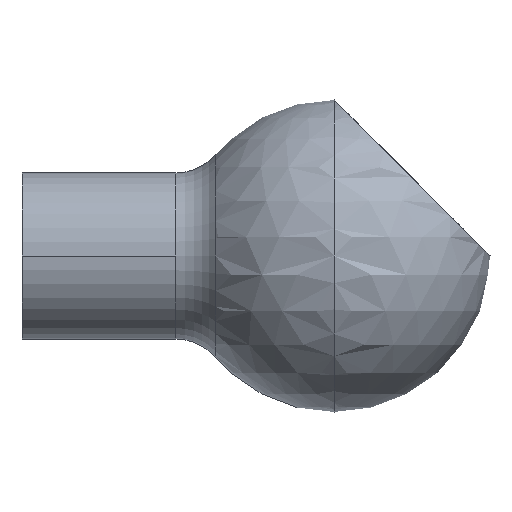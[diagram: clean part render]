
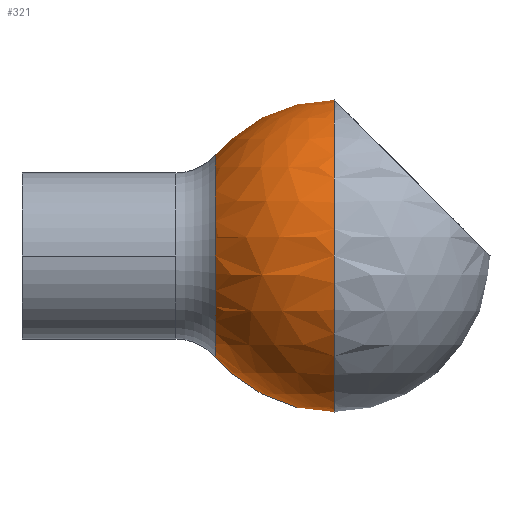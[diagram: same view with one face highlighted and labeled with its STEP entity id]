
A CAD part, left-side view. The second image highlights one B-rep face of the part: STEP entity #321.
In plain terms, the highlighted spherical face has radius 15 mm.
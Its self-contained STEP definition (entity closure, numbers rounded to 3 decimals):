
#167 = EDGE_CURVE( '', #287, #175, #441, .T. );
#173 = EDGE_CURVE( '', #257, #215, #447, .T. );
#175 = VERTEX_POINT( '', #449 );
#197 = VERTEX_POINT( '', #473 );
#199 = VERTEX_POINT( '', #475 );
#207 = VERTEX_POINT( '', #484 );
#209 = EDGE_CURVE( '', #175, #207, #486, .T. );
#211 = EDGE_CURVE( '', #215, #199, #488, .T. );
#215 = VERTEX_POINT( '', #493 );
#243 = EDGE_CURVE( '', #197, #257, #525, .T. );
#257 = VERTEX_POINT( '', #542 );
#259 = EDGE_CURVE( '', #207, #197, #544, .T. );
#287 = VERTEX_POINT( '', #575 );
#313 = EDGE_CURVE( '', #199, #363, #603, .T. );
#321 = ADVANCED_FACE( '', ( #611 ), #612, .T. );
#351 = EDGE_CURVE( '', #363, #287, #643, .T. );
#363 = VERTEX_POINT( '', #658 );
#441 = CIRCLE( '', #741, 15. );
#447 = CIRCLE( '', #749, 9.75 );
#449 = CARTESIAN_POINT( '', ( 0., -30., 15. ) );
#473 = CARTESIAN_POINT( '', ( 9., -30., -12. ) );
#475 = CARTESIAN_POINT( '', ( 0., -18.601, 9.75 ) );
#484 = CARTESIAN_POINT( '', ( 0., -30., -15. ) );
#486 = CIRCLE( '', #795, 15. );
#488 = CIRCLE( '', #798, 9.75 );
#493 = CARTESIAN_POINT( '', ( 0., -18.601, -9.75 ) );
#525 = CIRCLE( '', #844, 12. );
#542 = CARTESIAN_POINT( '', ( 9., -18.601, -3.75 ) );
#544 = CIRCLE( '', #866, 15. );
#575 = CARTESIAN_POINT( '', ( 9., -30., 12. ) );
#603 = CIRCLE( '', #966, 9.75 );
#611 = FACE_OUTER_BOUND( '', #975, .T. );
#612 = SPHERICAL_SURFACE( '', #976, 15. );
#643 = CIRCLE( '', #1022, 12. );
#658 = CARTESIAN_POINT( '', ( 9., -18.601, 3.75 ) );
#741 = AXIS2_PLACEMENT_3D( '', #1117, #1118, #1119 );
#749 = AXIS2_PLACEMENT_3D( '', #1123, #1124, #1125 );
#795 = AXIS2_PLACEMENT_3D( '', #1165, #1166, #1167 );
#798 = AXIS2_PLACEMENT_3D( '', #1168, #1169, #1170 );
#844 = AXIS2_PLACEMENT_3D( '', #1231, #1232, #1233 );
#866 = AXIS2_PLACEMENT_3D( '', #1263, #1264, #1265 );
#966 = AXIS2_PLACEMENT_3D( '', #1317, #1318, #1319 );
#975 = EDGE_LOOP( '', ( #1328, #1329, #1330, #1331, #1332, #1333, #1334, #1335 ) );
#976 = AXIS2_PLACEMENT_3D( '', #1336, #1337, #1338 );
#1022 = AXIS2_PLACEMENT_3D( '', #1375, #1376, #1377 );
#1117 = CARTESIAN_POINT( '', ( 0., -30., 0. ) );
#1118 = DIRECTION( '', ( 0., -1., 0. ) );
#1119 = DIRECTION( '', ( 0., 0., 1. ) );
#1123 = CARTESIAN_POINT( '', ( 0., -18.601, 0. ) );
#1124 = DIRECTION( '', ( 0., 1., 0. ) );
#1125 = DIRECTION( '', ( 0., 0., 1. ) );
#1165 = CARTESIAN_POINT( '', ( 0., -30., 0. ) );
#1166 = DIRECTION( '', ( 0., -1., 0. ) );
#1167 = DIRECTION( '', ( 0., 0., 1. ) );
#1168 = CARTESIAN_POINT( '', ( 0., -18.601, 0. ) );
#1169 = DIRECTION( '', ( 0., 1., 0. ) );
#1170 = DIRECTION( '', ( 0., 0., 1. ) );
#1231 = CARTESIAN_POINT( '', ( 9., -30., 0. ) );
#1232 = DIRECTION( '', ( 1., 0., 0. ) );
#1233 = DIRECTION( '', ( 0., 0., -1. ) );
#1263 = CARTESIAN_POINT( '', ( 0., -30., 0. ) );
#1264 = DIRECTION( '', ( 0., -1., 0. ) );
#1265 = DIRECTION( '', ( 0., 0., 1. ) );
#1317 = CARTESIAN_POINT( '', ( 0., -18.601, 0. ) );
#1318 = DIRECTION( '', ( 0., 1., 0. ) );
#1319 = DIRECTION( '', ( 0., 0., 1. ) );
#1328 = ORIENTED_EDGE( '', *, *, #209, .F. );
#1329 = ORIENTED_EDGE( '', *, *, #167, .F. );
#1330 = ORIENTED_EDGE( '', *, *, #351, .F. );
#1331 = ORIENTED_EDGE( '', *, *, #313, .F. );
#1332 = ORIENTED_EDGE( '', *, *, #211, .F. );
#1333 = ORIENTED_EDGE( '', *, *, #173, .F. );
#1334 = ORIENTED_EDGE( '', *, *, #243, .F. );
#1335 = ORIENTED_EDGE( '', *, *, #259, .F. );
#1336 = CARTESIAN_POINT( '', ( 0., -30., 0. ) );
#1337 = DIRECTION( '', ( 0., 0., 1. ) );
#1338 = DIRECTION( '', ( 1., 0., 0. ) );
#1375 = CARTESIAN_POINT( '', ( 9., -30., 0. ) );
#1376 = DIRECTION( '', ( 1., 0., 0. ) );
#1377 = DIRECTION( '', ( 0., 0., -1. ) );
